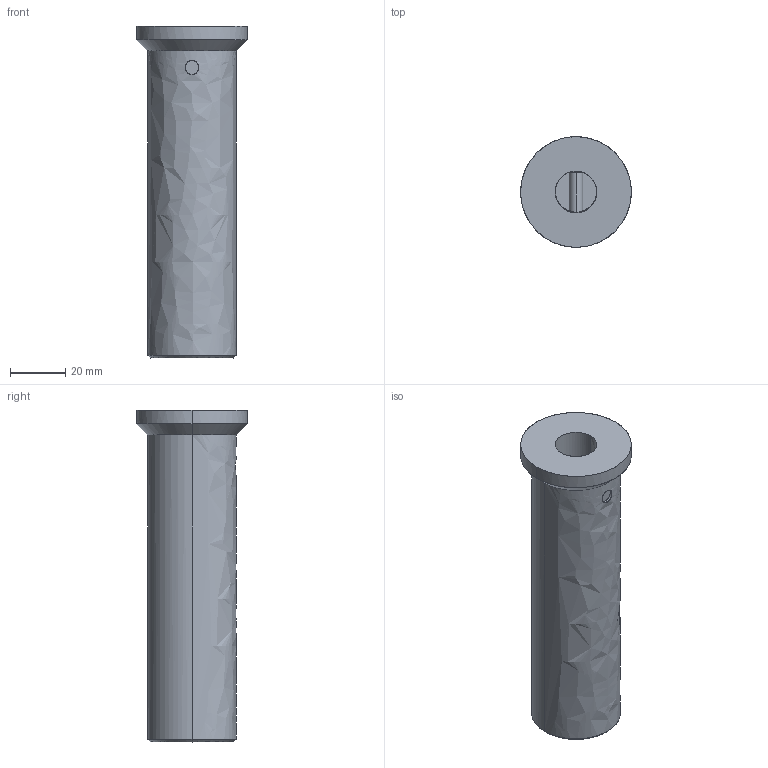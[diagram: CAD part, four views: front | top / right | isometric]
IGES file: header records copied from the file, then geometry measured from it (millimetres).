
Global section: file name: E:\UnigraphicsGraphicData\MISUMI_PRESS-PARTS\IGES\3d_lcup32-120_01347_r00.igs; native system: NX V5.0; preprocessor: UGS NX IGES V5.0; author: MISUMI; date: 20110105.161156; units: millimetre
Bounding box: 40 x 40 x 120 mm (x, y, z)
Surface area: 16322.4 mm2 (no closed solid volume)
Topology: 0 solids, 0 shells, 19 faces, 148 edges, 148 vertices
Faces by surface type: bspline 19
